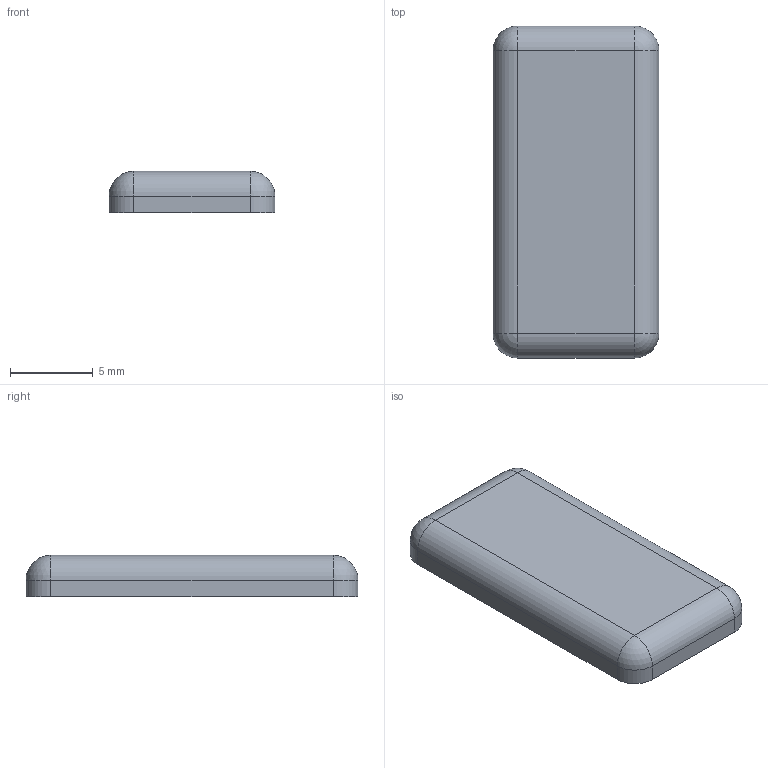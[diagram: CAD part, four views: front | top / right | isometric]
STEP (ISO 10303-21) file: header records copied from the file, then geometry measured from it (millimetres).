
FILE_DESCRIPTION( ( 'Unknown' ), '1' );
FILE_NAME( 'C:/Users/Fabrizio/Desktop/DISEGNI ACCESSORI FP SOLIDEDGE/CA.02.03.009.stp', 'Unknown', ( 'Unknown' ), ( 'Unknown' ), 'PSStep 13.0', 'Unknown', ' ' );
FILE_SCHEMA( ( 'AUTOMOTIVE_DESIGN { 1 0 10303 214 1 1 1 1 }' ) );
Length unit declared in the file: millimetre
Products named in the file (1): 0.0.370.09_1
Bounding box: 10 x 20 x 2.5 mm (x, y, z)
Volume: 468.5 mm3; surface area: 501.7 mm2
Topology: 1 solids, 1 shells, 18 faces, 40 edges, 20 vertices
Faces by surface type: cylinder 8, plane 6, sphere 4
Entity records: 475 total; most frequent: DIRECTION 90, CARTESIAN_POINT 75, ORIENTED_EDGE 72, EDGE_CURVE 36, AXIS2_PLACEMENT_3D 35, VERTEX_POINT 20, LINE 20, VECTOR 20
